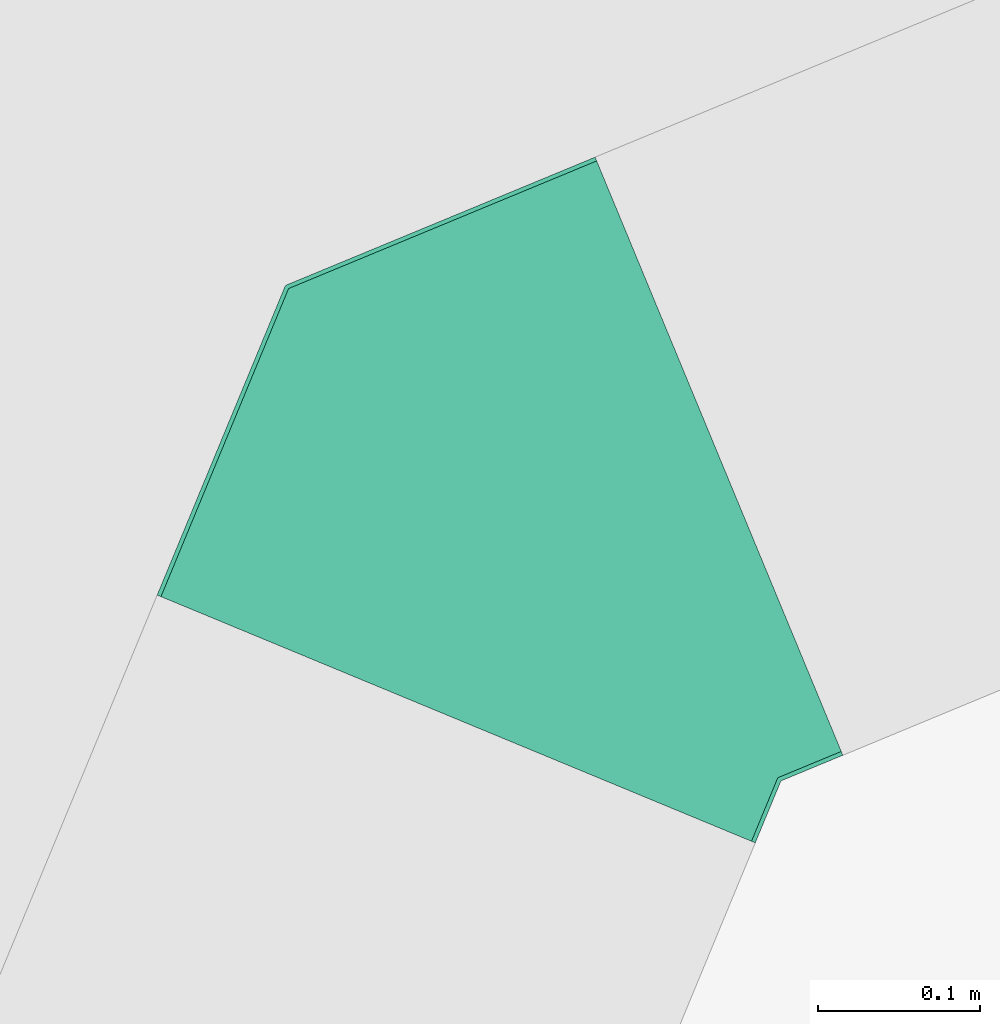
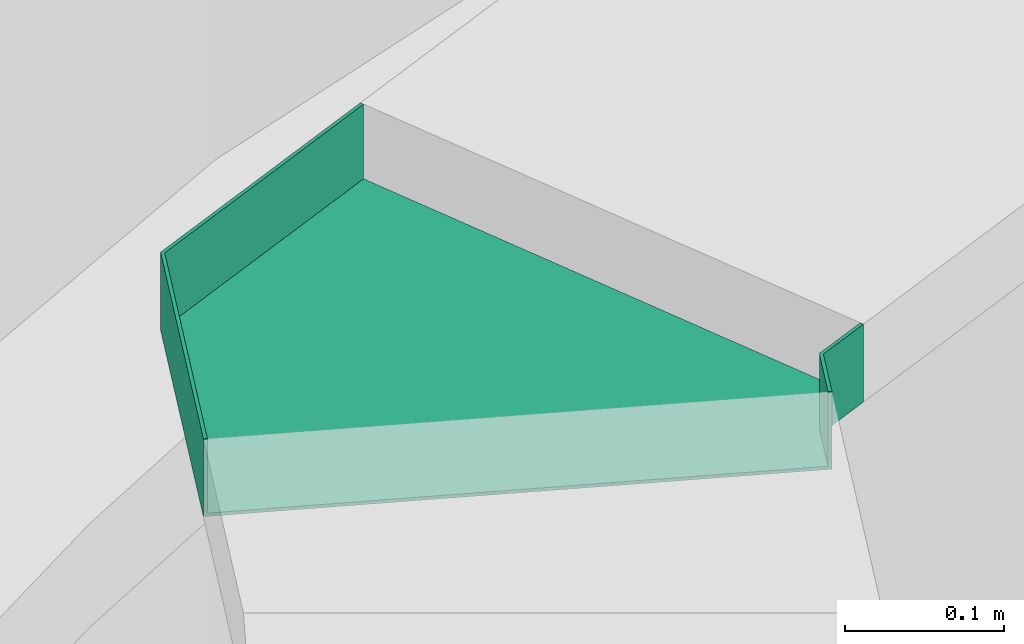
# One storey, part 287 of 302: 1 flow fitting.
"""IFC2X3 building model written with IfcOpenShell, lengths in metres."""

from ifc_helpers import new_model, entity, si_unit, converted_unit, derived_unit, direction, frame, origin, place, context, subcontext, project, spatial, faceted_brep, source, transform, mapped, material, type_object, type_shapes, element, save


model = new_model("IFC2X3")

# Units and contexts
model_context = context("Model", 3, precision=1e-05, world=origin(), true_north=direction((6.12303176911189e-17, 1.0)))
body_context = subcontext(model_context, "Body", "Model", "MODEL_VIEW")
ifc_project = project(units=[si_unit("LENGTHUNIT", "METRE"), si_unit("AREAUNIT", "SQUARE_METRE"), si_unit("VOLUMEUNIT", "CUBIC_METRE"), converted_unit("PLANEANGLEUNIT", "DEGREE", entity("IfcRatioMeasure", 0.0174532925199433), si_unit("PLANEANGLEUNIT", "RADIAN"), dimensions=[0, 0, 0, 0, 0, 0, 0]), si_unit("MASSUNIT", "GRAM", prefix="KILO"), derived_unit("MASSDENSITYUNIT", [(si_unit("MASSUNIT", "GRAM", prefix="KILO"), 1), (si_unit("LENGTHUNIT", "METRE"), -3)]), derived_unit("MOMENTOFINERTIAUNIT", [(si_unit("LENGTHUNIT", "METRE"), 4)]), si_unit("TIMEUNIT", "SECOND"), si_unit("FREQUENCYUNIT", "HERTZ"), si_unit("THERMODYNAMICTEMPERATUREUNIT", "DEGREE_CELSIUS"), derived_unit("THERMALTRANSMITTANCEUNIT", [(si_unit("MASSUNIT", "GRAM", prefix="KILO"), 1), (si_unit("THERMODYNAMICTEMPERATUREUNIT", "KELVIN"), -1), (si_unit("TIMEUNIT", "SECOND"), -3)]), derived_unit("VOLUMETRICFLOWRATEUNIT", [(si_unit("LENGTHUNIT", "METRE"), 3), (si_unit("TIMEUNIT", "SECOND"), -1)]), si_unit("ELECTRICCURRENTUNIT", "AMPERE"), si_unit("ELECTRICVOLTAGEUNIT", "VOLT"), si_unit("POWERUNIT", "WATT"), si_unit("FORCEUNIT", "NEWTON", prefix="KILO"), si_unit("ILLUMINANCEUNIT", "LUX"), si_unit("LUMINOUSFLUXUNIT", "LUMEN"), si_unit("LUMINOUSINTENSITYUNIT", "CANDELA"), derived_unit("USERDEFINED", [(si_unit("MASSUNIT", "GRAM", prefix="KILO"), -1), (si_unit("LENGTHUNIT", "METRE"), -2), (si_unit("TIMEUNIT", "SECOND"), 3), (si_unit("LUMINOUSFLUXUNIT", "LUMEN"), 1)]), derived_unit("LINEARVELOCITYUNIT", [(si_unit("LENGTHUNIT", "METRE"), 1), (si_unit("TIMEUNIT", "SECOND"), -1)]), si_unit("PRESSUREUNIT", "PASCAL"), derived_unit("USERDEFINED", [(si_unit("LENGTHUNIT", "METRE"), -2), (si_unit("MASSUNIT", "GRAM", prefix="KILO"), 1), (si_unit("TIMEUNIT", "SECOND"), -2)]), derived_unit("LINEARFORCEUNIT", [(si_unit("MASSUNIT", "GRAM", prefix="KILO"), 1), (si_unit("LENGTHUNIT", "METRE"), 1), (si_unit("TIMEUNIT", "SECOND"), -2), (si_unit("LENGTHUNIT", "METRE"), -1)]), derived_unit("PLANARFORCEUNIT", [(si_unit("MASSUNIT", "GRAM", prefix="KILO"), 1), (si_unit("LENGTHUNIT", "METRE"), 1), (si_unit("TIMEUNIT", "SECOND"), -2), (si_unit("LENGTHUNIT", "METRE"), -2)])], contexts=[model_context])

# Site, building, storey
site_placement = place(None, origin())
site = spatial("IfcSite", under=ifc_project, at=site_placement, Name="Default", CompositionType="ELEMENT")
building_placement = place(site_placement, origin())
building = spatial("IfcBuilding", under=site, at=building_placement, CompositionType="ELEMENT")
storey_placement = place(building_placement, frame((0.0, 0.0, -1.3)))
storey = spatial("IfcBuildingStorey", under=building, at=storey_placement, Name="00_EG", CompositionType="ELEMENT", Elevation=-1.3)

# Flow fitting
ifc_material = material(Name="<Unnamed>")
cable_carrier_fitting_type = type_object("IfcCableCarrierFittingType", Name="Kabeltrasse - Bogen (Ecke) reduzierend:Standard", PredefinedType="NOTDEFINED", material=ifc_material)
shared_shape = source(origin(), body_context, "Body", "Brep", [
    faceted_brep([(-0.124264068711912, -0.200000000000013, -0.0300000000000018), (-0.124264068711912, -0.200000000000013, 0.0299999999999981), (-0.124264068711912, -0.197460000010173, 0.0299999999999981), (-0.124264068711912, -0.197460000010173, -0.0274600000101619), (-0.124264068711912, 0.197460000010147, -0.0274600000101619), (-0.124264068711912, 0.197460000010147, 0.0299999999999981), (-0.124264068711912, 0.199999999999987, 0.0299999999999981), (-0.124264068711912, 0.199999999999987, -0.0300000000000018), (0.229289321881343, -0.0535533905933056, -0.0300000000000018), (-0.0535533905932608, 0.229289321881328, -0.0300000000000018), (-0.0535533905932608, 0.229289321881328, 0.0299999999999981), (-0.0517573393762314, 0.227493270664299, 0.0299999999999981), (-0.0517573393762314, 0.227493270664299, -0.0274600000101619), (0.227493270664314, -0.0517573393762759, -0.0274600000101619), (0.227493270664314, -0.0517573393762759, 0.0299999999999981), (0.229289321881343, -0.0535533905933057, 0.0299999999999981), (0.0828427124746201, -0.200000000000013, -0.0300000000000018), (0.0828427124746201, -0.200000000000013, 0.0299999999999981), (0.0817906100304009, -0.197460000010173, 0.0299999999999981), (0.0817906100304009, -0.197460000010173, -0.0274600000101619), (-0.0817906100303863, 0.197460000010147, -0.0274600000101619), (-0.0817906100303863, 0.197460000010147, 0.0299999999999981), (-0.0828427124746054, 0.199999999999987, 0.0299999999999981), (-0.0828427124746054, 0.199999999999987, -0.0300000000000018)], [[[0, 1, 2, 3, 4, 5, 6, 7]], [[8, 9, 10, 11, 12, 13, 14, 15]], [[1, 0, 16, 17]], [[2, 1, 17, 15, 14, 18]], [[3, 2, 18, 19]], [[4, 3, 19, 13, 12, 20]], [[5, 4, 20, 21]], [[6, 5, 21, 11, 10, 22]], [[7, 6, 22, 23]], [[0, 7, 23, 9, 8, 16]], [[17, 16, 8, 15]], [[19, 18, 14, 13]], [[21, 20, 12, 11]], [[23, 22, 10, 9]]]),
])
type_shapes(cable_carrier_fitting_type, [shared_shape])
flow_fitting_placement = place(storey_placement, frame((-265.444344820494, 44.342322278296, 4.85), z_axis=(0.0, 0.0, 1.0), x_axis=(-0.92387953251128, -0.382683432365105, 0.0)))
element("IfcFlowFitting", 1, at=flow_fitting_placement, inside=storey, type_object=cable_carrier_fitting_type, material=ifc_material, Name="Kabeltrasse - Bogen (Ecke) reduzierend:Standard", ObjectType="Kabeltrasse - Bogen (Ecke) reduzierend:Standard", context=body_context, shape_type="MappedRepresentation", body=[
    mapped(shared_shape, transform((0.0, 0.0, 0.0), scale=1.0)),
])

save(model, "model.ifc")
